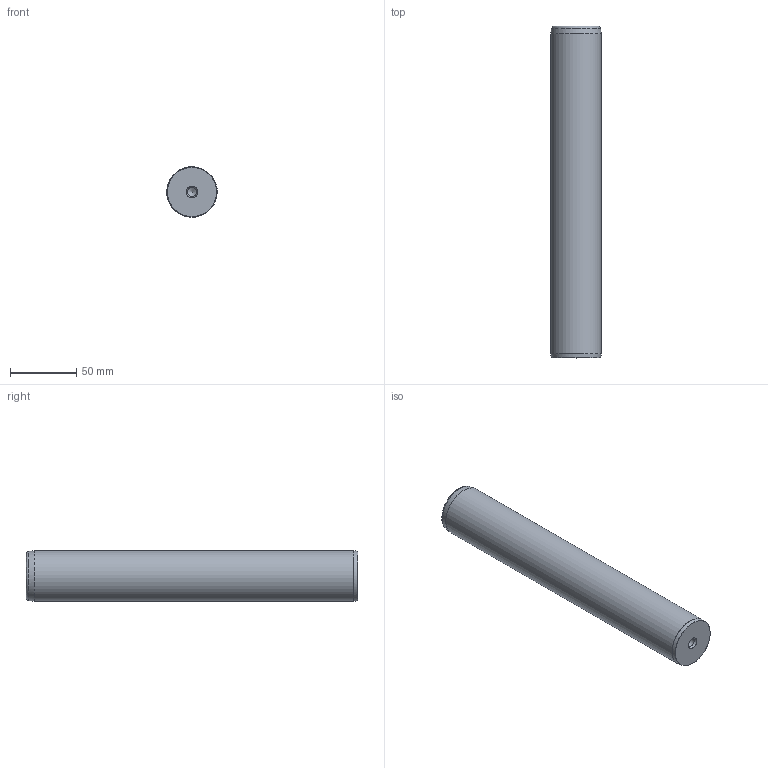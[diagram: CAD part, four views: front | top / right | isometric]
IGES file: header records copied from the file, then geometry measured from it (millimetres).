
Start section: Missler Software BP 521, 31674 Labege Cedex, France Tel   : +33 (0)5 61 00 03 00 Fax   : +33 (0)5 61 00 03 03 Email : sup.topsolid@topsolid.com
Global section: file name: D:\Cuma\D14-2\D14_38250.igs; native system: TopSolid v605250 Missler Software; preprocessor: IGES preprocessor v100000; date: 030120.194210; units: millimetre
Bounding box: 37.99 x 250 x 38 mm (x, y, z)
Surface area: 33043.1 mm2 (no closed solid volume)
Topology: 0 solids, 0 shells, 14 faces, 145 edges, 136 vertices
Faces by surface type: bspline 14
